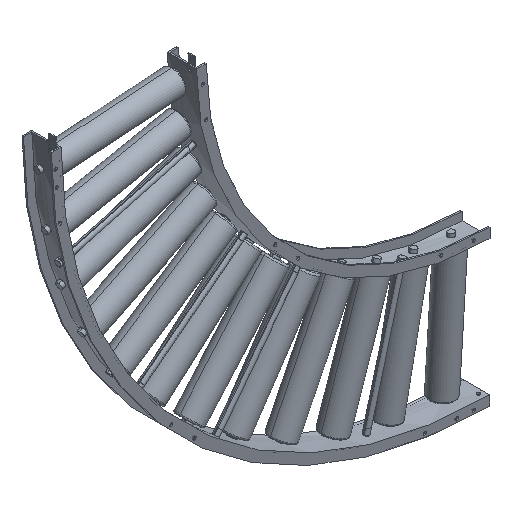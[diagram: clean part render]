
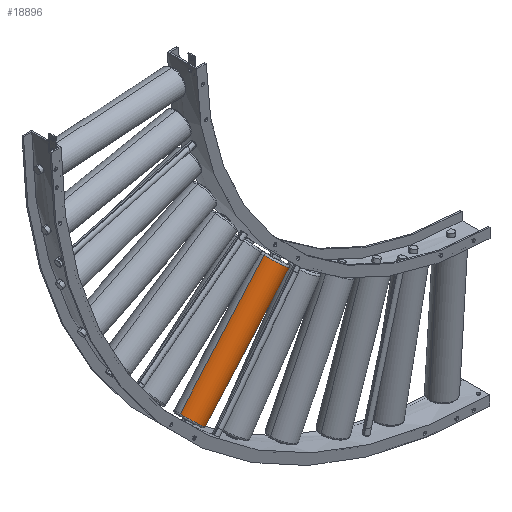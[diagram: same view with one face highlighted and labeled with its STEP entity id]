
A CAD part, isometric view. The second image highlights one B-rep face of the part: STEP entity #18896.
In plain terms, the highlighted cylindrical face has radius 38.15 mm (diameter 76.3 mm), a partial arc.
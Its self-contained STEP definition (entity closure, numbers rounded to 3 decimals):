
#2140 = CARTESIAN_POINT ( 'NONE',  ( -262.578, 38.316, -504.128 ) ) ;
#2157 = CARTESIAN_POINT ( 'NONE',  ( 55.204, 36.081, -257.438 ) ) ;
#2732 = DIRECTION ( 'NONE',  ( -0.659, 0., -0.752 ) ) ;
#2852 = DIRECTION ( 'NONE',  ( 0.752, -0.029, -0.659 ) ) ;
#3946 = CARTESIAN_POINT ( 'NONE',  ( -233.908, 37.199, -529.271 ) ) ;
#4799 = ORIENTED_EDGE ( 'NONE', *, *, #16417, .T. ) ;
#5922 = CARTESIAN_POINT ( 'NONE',  ( -205.238, 36.081, -554.415 ) ) ;
#5983 = CARTESIAN_POINT ( 'NONE',  ( 26.534, 37.199, -232.295 ) ) ;
#6106 = CYLINDRICAL_SURFACE ( 'NONE', #11654, 38.15 ) ;
#7282 = VERTEX_POINT ( 'NONE', #11990 ) ;
#7493 = AXIS2_PLACEMENT_3D ( 'NONE', #3946, #18689, #7673 ) ;
#7546 = DIRECTION ( 'NONE',  ( -0.752, 0.029, 0.659 ) ) ;
#7673 = DIRECTION ( 'NONE',  ( 0.752, -0.029, -0.659 ) ) ;
#7780 = FACE_OUTER_BOUND ( 'NONE', #22718, .T. ) ;
#7926 = DIRECTION ( 'NONE',  ( -0.659, 0., -0.752 ) ) ;
#8573 = VERTEX_POINT ( 'NONE', #9944 ) ;
#8856 = AXIS2_PLACEMENT_3D ( 'NONE', #17566, #2732, #2852 ) ;
#9944 = CARTESIAN_POINT ( 'NONE',  ( -5.433, 38.316, -210.911 ) ) ;
#10548 = EDGE_CURVE ( 'NONE', #7282, #18594, #18937, .T. ) ;
#11654 = AXIS2_PLACEMENT_3D ( 'NONE', #5983, #22636, #7546 ) ;
#11990 = CARTESIAN_POINT ( 'NONE',  ( 51.907, 36.081, -261.197 ) ) ;
#12283 = VECTOR ( 'NONE', #7926, 1000. ) ;
#14262 = CIRCLE ( 'NONE', #8856, 38.15 ) ;
#14368 = ORIENTED_EDGE ( 'NONE', *, *, #14515, .T. ) ;
#14515 = EDGE_CURVE ( 'NONE', #7282, #8573, #14262, .T. ) ;
#14820 = CIRCLE ( 'NONE', #7493, 38.15 ) ;
#16078 = DIRECTION ( 'NONE',  ( -0.659, 0., -0.752 ) ) ;
#16417 = EDGE_CURVE ( 'NONE', #8573, #23542, #18134, .T. ) ;
#17566 = CARTESIAN_POINT ( 'NONE',  ( 23.237, 37.199, -236.054 ) ) ;
#18134 = LINE ( 'NONE', #20060, #23123 ) ;
#18594 = VERTEX_POINT ( 'NONE', #5922 ) ;
#18689 = DIRECTION ( 'NONE',  ( 0.659, 0., 0.752 ) ) ;
#18896 = ADVANCED_FACE ( 'NONE', ( #7780 ), #6106, .T. ) ;
#18937 = LINE ( 'NONE', #2157, #12283 ) ;
#20060 = CARTESIAN_POINT ( 'NONE',  ( -2.137, 38.316, -207.151 ) ) ;
#20364 = ORIENTED_EDGE ( 'NONE', *, *, #23591, .T. ) ;
#22636 = DIRECTION ( 'NONE',  ( -0.659, 0., -0.752 ) ) ;
#22718 = EDGE_LOOP ( 'NONE', ( #23646, #14368, #4799, #20364 ) ) ;
#23123 = VECTOR ( 'NONE', #16078, 1000. ) ;
#23542 = VERTEX_POINT ( 'NONE', #2140 ) ;
#23591 = EDGE_CURVE ( 'NONE', #23542, #18594, #14820, .T. ) ;
#23646 = ORIENTED_EDGE ( 'NONE', *, *, #10548, .F. ) ;
